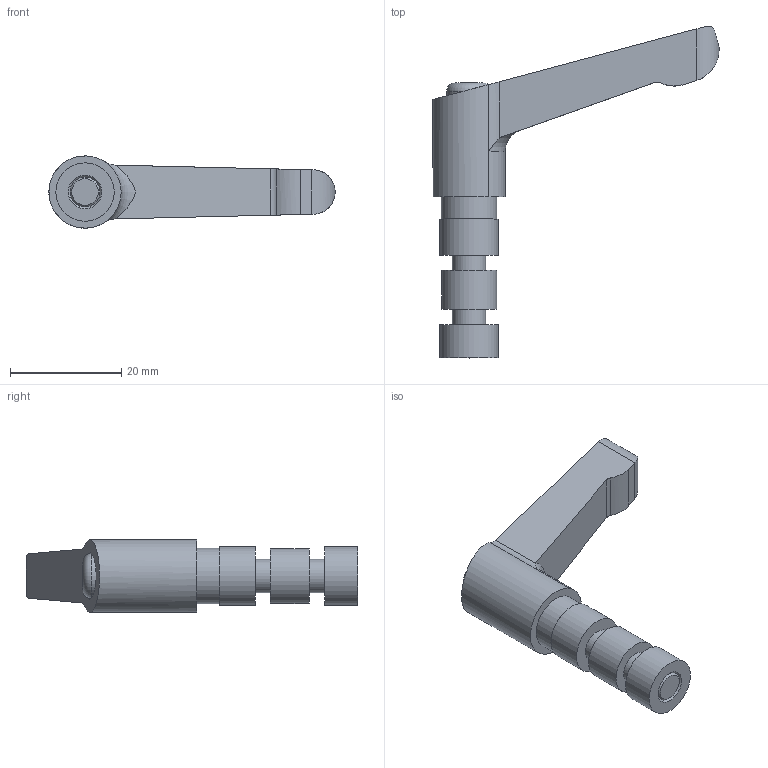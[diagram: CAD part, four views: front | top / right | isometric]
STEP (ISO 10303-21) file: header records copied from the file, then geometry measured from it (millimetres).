
FILE_DESCRIPTION( ( 'STEP AP203' ), '1' );
FILE_NAME( 'C:/Temp/Ganter_Step_05_03_2020/data/3_7/511_1/gn_511_1_k/Swivel clamp mounting GN 511.1-M6-25-K.stp', '2020-03-12T14:38:03', ( 'License CC BY-ND 4.0' ), ( 'CADENAS' ), ' ', 'PARTsolutions', ' ' );
FILE_SCHEMA( ( 'CONFIG_CONTROL_DESIGN' ) );
Length unit declared in the file: millimetre
Products named in the file (1): _Swivel clamp mounting GN 511.1-M6-25-K
Bounding box: 51.5 x 59.73 x 12.99 mm (x, y, z)
Volume: 7663.2 mm3; surface area: 3605.1 mm2
Topology: 1 solids, 1 shells, 51 faces, 119 edges, 80 vertices
Faces by surface type: cylinder 30, plane 17, torus 2, cone 2
Full cylindrical faces by diameter (mm): 6 x2, 8 x1, 8.3 x1, 9.9 x1, 10 x1, 10.5 x2
Entity records: 1571 total; most frequent: CARTESIAN_POINT 378, DIRECTION 257, ORIENTED_EDGE 210, AXIS2_PLACEMENT_3D 112, EDGE_CURVE 105, VERTEX_POINT 77, EDGE_LOOP 72, FACE_OUTER_BOUND 60
